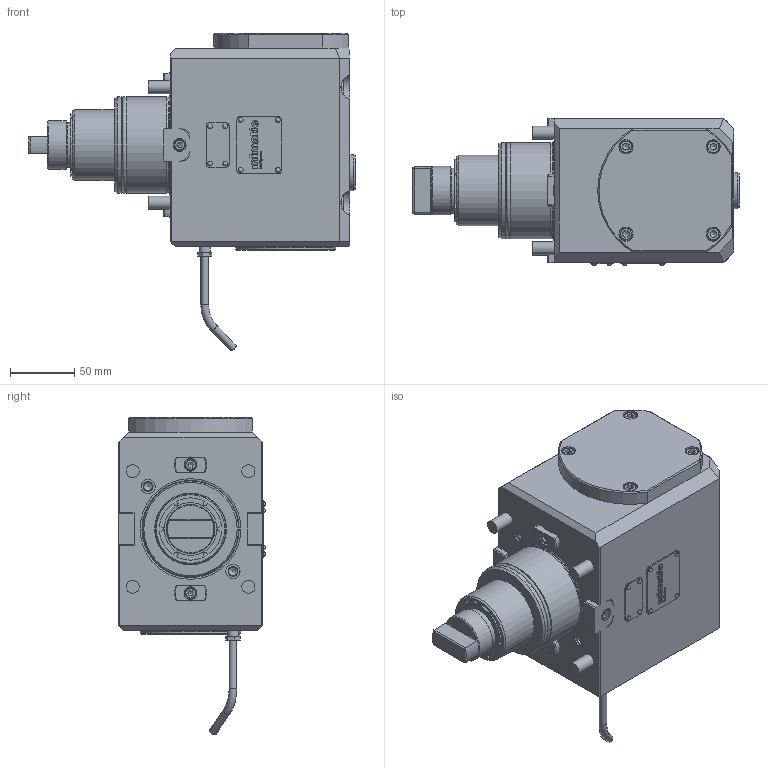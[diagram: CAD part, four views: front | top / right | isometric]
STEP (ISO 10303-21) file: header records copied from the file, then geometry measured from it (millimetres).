
FILE_DESCRIPTION(/* description */ (''),/* implementation_level */ '2;1');
FILE_NAME(/* name */ '197607-UNI',/* time_stamp */ '2022-01-13T13:11:27+01:00',/* author */ (''),/* organization */ (''),/* preprocessor_version */ 'ST-DEVELOPER v16.5',/* originating_system */ 'HiCAD 2017 2201.0 Build 268',/* authorisation */ '');
FILE_SCHEMA (('AUTOMOTIVE_DESIGN { 1 0 10303 214 1 1 1 1 }'));
Products named in the file (4): Root; Teil; Normteilgruppe _0
Assembly tree (3 placements, depth 3):
  Root
    Teil
      Normteilgruppe _0
      Normteilgruppe _0
Bounding box: 254.2 x 114.29 x 247.17 mm (x, y, z)
Volume: 2765170.3 mm3; surface area: 177078.7 mm2
Topology: 1 solids, 23 shells, 1153 faces, 2873 edges, 1870 vertices
Faces by surface type: plane 693, cylinder 230, cone 95, torus 87, bspline 40, sphere 8
Full cylindrical faces by diameter (mm): 2 x8, 2.2 x8, 3 x1, 4 x2, 4.2 x2, 5 x12, 5.5 x8, 6 x6, 6.6 x4, 6.8 x2, 7.65 x2, 8.5 x8, 8.773 x1, 10 x13, 10.2 x4, 11 x4, 11.01 x2, 11.1 x2, 13 x1, 16 x1, 16.4 x1, 18 x4, 19.8 x1, 20 x5, 28 x1, 33 x1, 35 x1, 38 x1, 39.2 x1, 41 x1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
Entity records: 61712 total; most frequent: CARTESIAN_POINT 9653, DIRECTION 5562, PRESENTATION_STYLE_ASSIGNMENT 5157, COLOUR_RGB 5157, DRAUGHTING_PRE_DEFINED_CURVE_FONT 5156, CURVE_STYLE 5156, OVER_RIDING_STYLED_ITEM 5156, ORIENTED_EDGE 5156
